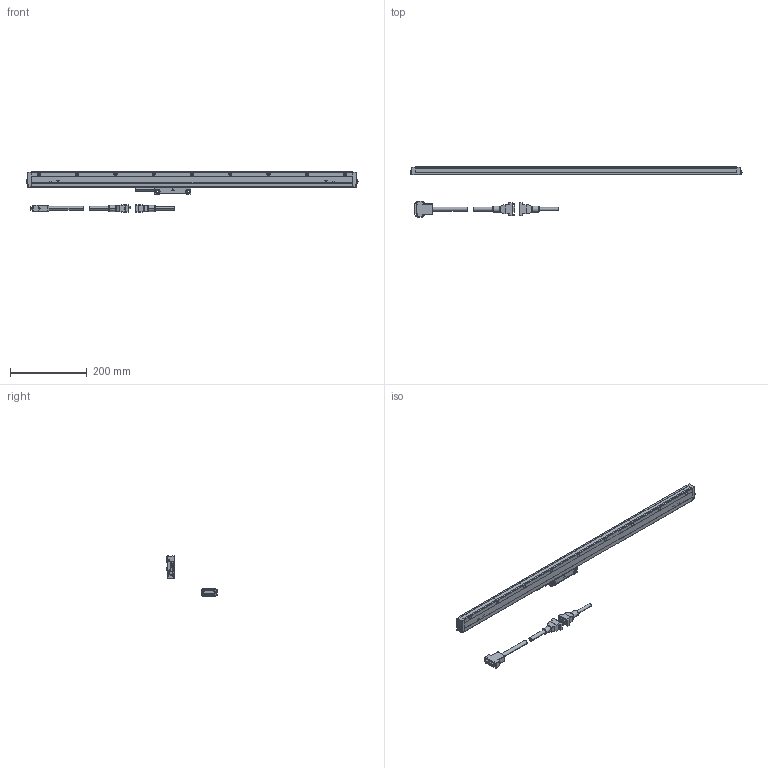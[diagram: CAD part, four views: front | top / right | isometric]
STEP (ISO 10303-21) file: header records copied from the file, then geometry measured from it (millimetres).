
FILE_DESCRIPTION(('Creo Elements/Direct Modeling STEP Export'),'2;1');
FILE_NAME('AT211-700A.stp','2018-03-15T10:02:38',(''),(''),'Creo Elements/Direct Modeling STEP processor for AP214 (Solid Model)','Creo Elements/Direct Modeling 18.1B 29-Sep-2012 (C) Parametric Technology GmbH','');
FILE_SCHEMA(('AUTOMOTIVE_DESIGN { 1 0 10303 214 1 1 1 1 }'));
Length unit declared in the file: millimetre
Products named in the file (7): Detector_Head; Head_Cable; SignalCable; D-sub15; Cable; AT211_Scale_700; AT211-700A
Assembly tree (6 placements, depth 3):
  AT211-700A
    AT211_Scale_700
    Cable
      D-sub15
      SignalCable
      Head_Cable
    Detector_Head
Bounding box: 867.12 x 130.6 x 105 mm (x, y, z)
Volume: 756292.1 mm3; surface area: 150383.3 mm2
Topology: 5 solids, 5 shells, 1075 faces, 2609 edges, 1547 vertices
Faces by surface type: plane 517, cylinder 354, sphere 74, cone 48, torus 38, extrusion 32, revolution 8, bspline 4
Entity records: 34966 total; most frequent: CARTESIAN_POINT 9030, ORIENTED_EDGE 5070, DIRECTION 4788, EDGE_CURVE 2535, AXIS2_PLACEMENT_3D 1687, VERTEX_POINT 1547, VECTOR 1402, LINE 1390
